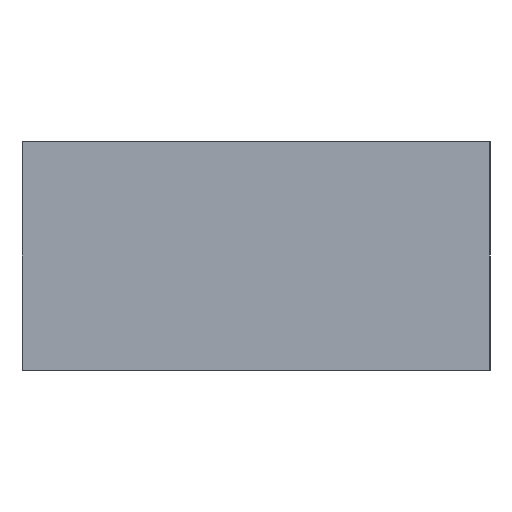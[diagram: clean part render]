
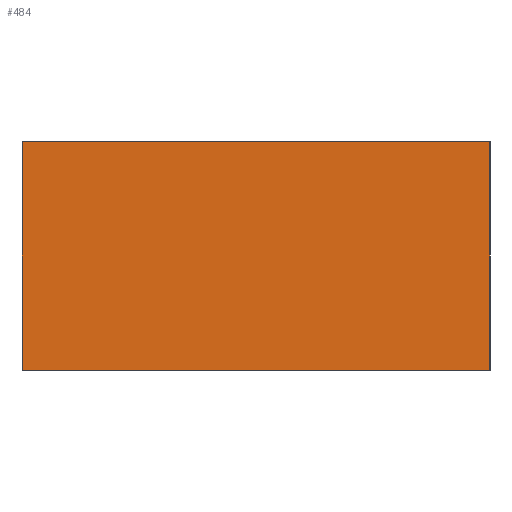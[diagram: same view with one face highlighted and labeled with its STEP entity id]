
A CAD part, left-side view. The second image highlights one B-rep face of the part: STEP entity #484.
In plain terms, the highlighted planar face has unit normal (-1, 0, 0).
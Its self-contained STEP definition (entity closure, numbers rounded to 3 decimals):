
#42 = LINE ( 'NONE', #97, #351 ) ;
#43 = CARTESIAN_POINT ( 'NONE',  ( -101.6, 0., 27.305 ) ) ;
#86 = ORIENTED_EDGE ( 'NONE', *, *, #399, .T. ) ;
#97 = CARTESIAN_POINT ( 'NONE',  ( -101.6, 55.88, 27.305 ) ) ;
#106 = ORIENTED_EDGE ( 'NONE', *, *, #227, .F. ) ;
#137 = FACE_OUTER_BOUND ( 'NONE', #151, .T. ) ;
#151 = EDGE_LOOP ( 'NONE', ( #86, #106, #607, #626 ) ) ;
#168 = VERTEX_POINT ( 'NONE', #649 ) ;
#204 = DIRECTION ( 'NONE',  ( 1., 0., 0. ) ) ;
#227 = EDGE_CURVE ( 'NONE', #168, #247, #260, .T. ) ;
#245 = DIRECTION ( 'NONE',  ( 0., 0., -1. ) ) ;
#247 = VERTEX_POINT ( 'NONE', #462 ) ;
#260 = LINE ( 'NONE', #43, #436 ) ;
#261 = VERTEX_POINT ( 'NONE', #565 ) ;
#294 = VECTOR ( 'NONE', #509, 1000. ) ;
#295 = CARTESIAN_POINT ( 'NONE',  ( -101.6, 55.88, 27.305 ) ) ;
#305 = DIRECTION ( 'NONE',  ( 0., -1., 0. ) ) ;
#311 = CARTESIAN_POINT ( 'NONE',  ( -101.6, 55.88, 27.305 ) ) ;
#342 = VECTOR ( 'NONE', #305, 1000. ) ;
#349 = PLANE ( 'NONE',  #383 ) ;
#351 = VECTOR ( 'NONE', #245, 1000. ) ;
#354 = DIRECTION ( 'NONE',  ( 0., 0., -1. ) ) ;
#358 = CARTESIAN_POINT ( 'NONE',  ( -101.6, 55.88, 27.305 ) ) ;
#383 = AXIS2_PLACEMENT_3D ( 'NONE', #295, #204, #597 ) ;
#399 = EDGE_CURVE ( 'NONE', #261, #247, #411, .T. ) ;
#409 = VERTEX_POINT ( 'NONE', #311 ) ;
#411 = LINE ( 'NONE', #605, #294 ) ;
#418 = EDGE_CURVE ( 'NONE', #409, #168, #550, .T. ) ;
#436 = VECTOR ( 'NONE', #354, 1000. ) ;
#461 = EDGE_CURVE ( 'NONE', #409, #261, #42, .T. ) ;
#462 = CARTESIAN_POINT ( 'NONE',  ( -101.6, 0., 0. ) ) ;
#484 = ADVANCED_FACE ( 'NONE', ( #137 ), #349, .F. ) ;
#509 = DIRECTION ( 'NONE',  ( 0., -1., 0. ) ) ;
#550 = LINE ( 'NONE', #358, #342 ) ;
#565 = CARTESIAN_POINT ( 'NONE',  ( -101.6, 55.88, 0. ) ) ;
#597 = DIRECTION ( 'NONE',  ( 0., 1., 0. ) ) ;
#605 = CARTESIAN_POINT ( 'NONE',  ( -101.6, 55.88, 0. ) ) ;
#607 = ORIENTED_EDGE ( 'NONE', *, *, #418, .F. ) ;
#626 = ORIENTED_EDGE ( 'NONE', *, *, #461, .T. ) ;
#649 = CARTESIAN_POINT ( 'NONE',  ( -101.6, 0., 27.305 ) ) ;
